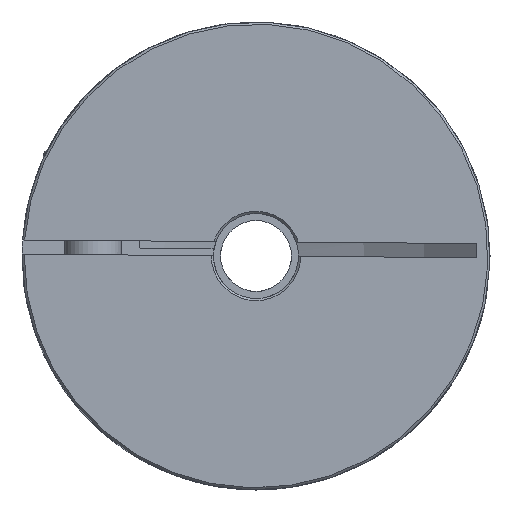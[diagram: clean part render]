
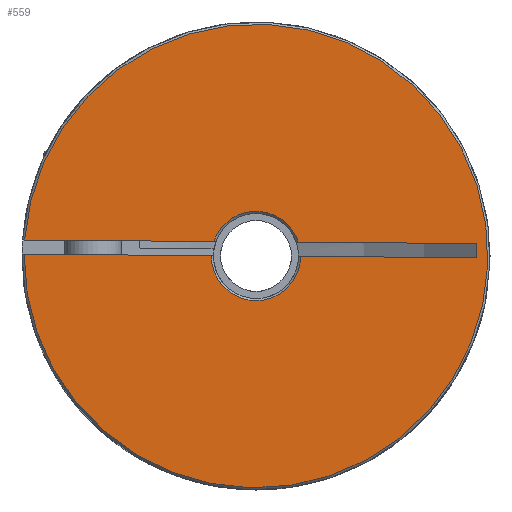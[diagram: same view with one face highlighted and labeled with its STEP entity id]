
A CAD part, left-side view. The second image highlights one B-rep face of the part: STEP entity #559.
In plain terms, the highlighted planar face has unit normal (-1, 0, 0) as drawn and (0, 0, 1) by its records, which use the part's own axes.
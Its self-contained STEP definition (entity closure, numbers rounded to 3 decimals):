
#559 = ADVANCED_FACE( 'NONE', ( #1126 ), #1127, .T. );
#1126 = FACE_OUTER_BOUND( '', #1667, .T. );
#1127 = PLANE( '', #1668 );
#1667 = EDGE_LOOP( '', ( #2826, #2827, #2828, #2829, #2830, #2831, #2832, #2833 ) );
#1668 = AXIS2_PLACEMENT_3D( '', #2834, #2835, #2836 );
#2826 = ORIENTED_EDGE( '', *, *, #3091, .F. );
#2827 = ORIENTED_EDGE( '', *, *, #3375, .T. );
#2828 = ORIENTED_EDGE( '', *, *, #3099, .F. );
#2829 = ORIENTED_EDGE( '', *, *, #3345, .T. );
#2830 = ORIENTED_EDGE( '', *, *, #2932, .T. );
#2831 = ORIENTED_EDGE( '', *, *, #3350, .T. );
#2832 = ORIENTED_EDGE( '', *, *, #3301, .T. );
#2833 = ORIENTED_EDGE( '', *, *, #3079, .F. );
#2834 = CARTESIAN_POINT( '', ( 0., 0., 29. ) );
#2835 = DIRECTION( '', ( 0., 0., 1. ) );
#2836 = DIRECTION( '', ( 1., 0., 0. ) );
#2932 = EDGE_CURVE( 'NONE', #3404, #3402, #3405, .T. );
#3079 = EDGE_CURVE( 'NONE', #3649, #3650, #3651, .F. );
#3091 = EDGE_CURVE( 'NONE', #3665, #3649, #3667, .F. );
#3099 = EDGE_CURVE( 'NONE', #3678, #3679, #3680, .F. );
#3301 = EDGE_CURVE( 'NONE', #3975, #3650, #3976, .T. );
#3345 = EDGE_CURVE( 'NONE', #3678, #3404, #4028, .T. );
#3350 = EDGE_CURVE( 'NONE', #3402, #3975, #4034, .F. );
#3375 = EDGE_CURVE( 'NONE', #3665, #3679, #4059, .F. );
#3402 = VERTEX_POINT( 'NONE', #4086 );
#3404 = VERTEX_POINT( 'NONE', #4091 );
#3405 = LINE( '', #4092, #4093 );
#3649 = VERTEX_POINT( 'NONE', #4485 );
#3650 = VERTEX_POINT( 'NONE', #4486 );
#3651 = LINE( '', #4487, #4488 );
#3665 = VERTEX_POINT( 'NONE', #4503 );
#3667 = LINE( '', #4506, #4507 );
#3678 = VERTEX_POINT( 'NONE', #4682 );
#3679 = VERTEX_POINT( 'NONE', #4683 );
#3680 = LINE( '', #4684, #4685 );
#3975 = VERTEX_POINT( 'NONE', #5027 );
#3976 = LINE( '', #5028, #5029 );
#4028 = CIRCLE( '', #5153, 32.7 );
#4034 = CIRCLE( '', #5160, 6.3 );
#4059 = CIRCLE( '', #5187, 6.3 );
#4086 = CARTESIAN_POINT( '', ( 5.974, -2., 29. ) );
#4091 = CARTESIAN_POINT( '', ( 32.639, -2., 29. ) );
#4092 = CARTESIAN_POINT( '', ( 0., -2., 29. ) );
#4093 = VECTOR( '', #5211, 1000. );
#4485 = CARTESIAN_POINT( '', ( -31.103, 0., 29. ) );
#4486 = CARTESIAN_POINT( '', ( -31.103, -2., 29. ) );
#4487 = CARTESIAN_POINT( '', ( -31.103, -2., 29. ) );
#4488 = VECTOR( '', #5433, 1000. );
#4503 = CARTESIAN_POINT( '', ( -6.3, 0., 29. ) );
#4506 = CARTESIAN_POINT( '', ( 16.5, 0., 29. ) );
#4507 = VECTOR( '', #5454, 1000. );
#4682 = CARTESIAN_POINT( '', ( 32.7, 0., 29. ) );
#4683 = CARTESIAN_POINT( '', ( 6.3, 0., 29. ) );
#4684 = CARTESIAN_POINT( '', ( 16.5, 0., 29. ) );
#4685 = VECTOR( '', #5460, 1000. );
#5027 = CARTESIAN_POINT( '', ( -5.974, -2., 29. ) );
#5028 = CARTESIAN_POINT( '', ( 0., -2., 29. ) );
#5029 = VECTOR( '', #5802, 1000. );
#5153 = AXIS2_PLACEMENT_3D( '', #5845, #5846, #5847 );
#5160 = AXIS2_PLACEMENT_3D( '', #5852, #5853, #5854 );
#5187 = AXIS2_PLACEMENT_3D( '', #5869, #5870, #5871 );
#5211 = DIRECTION( '', ( -1., 0., 0. ) );
#5433 = DIRECTION( '', ( 0., 1., 0. ) );
#5454 = DIRECTION( '', ( 1., 0., 0. ) );
#5460 = DIRECTION( '', ( 1., 0., 0. ) );
#5802 = DIRECTION( '', ( -1., 0., 0. ) );
#5845 = CARTESIAN_POINT( '', ( 0., 0., 29. ) );
#5846 = DIRECTION( '', ( 0., 0., 1. ) );
#5847 = DIRECTION( '', ( 1., 0., 0. ) );
#5852 = CARTESIAN_POINT( '', ( 0., 0., 29. ) );
#5853 = DIRECTION( '', ( 0., 0., 1. ) );
#5854 = DIRECTION( '', ( 1., 0., 0. ) );
#5869 = CARTESIAN_POINT( '', ( 0., 0., 29. ) );
#5870 = DIRECTION( '', ( 0., 0., 1. ) );
#5871 = DIRECTION( '', ( 1., 0., 0. ) );
